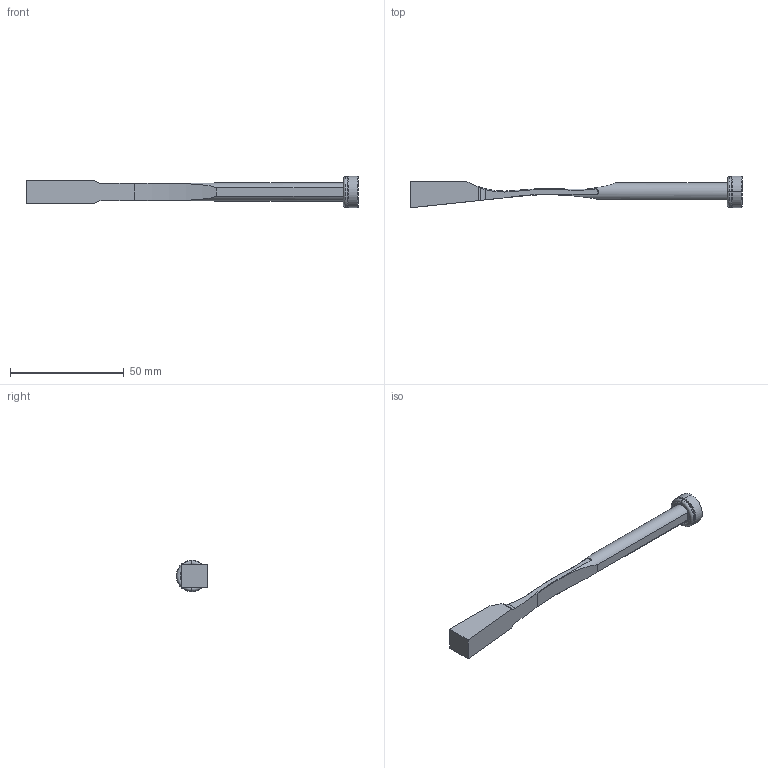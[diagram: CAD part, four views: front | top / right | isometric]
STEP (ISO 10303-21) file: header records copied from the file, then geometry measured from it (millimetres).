
FILE_DESCRIPTION (( 'STEP AP214' ), '1' );
FILE_NAME ('PW081025-TANCADA.STEP', '2020-02-10T08:44:58', ( '' ), ( '' ), 'SwSTEP 2.0', 'SolidWorks 2018', '' );
FILE_SCHEMA (( 'AUTOMOTIVE_DESIGN' ));
Length unit declared in the file: millimetre
Products named in the file (5): 9FP1406M5; PW081025-TANCADA; 1DIN7984516_DIN 7984 - M5 x 16 --- 16C; 9PW081025 TANCADA; 3JT9.5X2X13.5
Assembly tree (4 placements, depth 2):
  PW081025-TANCADA
    9PW081025 TANCADA
    9FP1406M5
    1DIN7984516_DIN 7984 - M5 x 16 --- 16C
    3JT9.5X2X13.5
Bounding box: 146 x 13.9 x 13.8 mm (x, y, z)
Volume: 7643.3 mm3; surface area: 5776.4 mm2
Topology: 4 solids, 4 shells, 94 faces, 217 edges, 130 vertices
Faces by surface type: plane 34, cylinder 20, cone 16, torus 16, bspline 8
Entity records: 3245 total; most frequent: CARTESIAN_POINT 896, DIRECTION 441, ORIENTED_EDGE 426, EDGE_CURVE 213, AXIS2_PLACEMENT_3D 179, VERTEX_POINT 130, EDGE_LOOP 101, ADVANCED_FACE 94
